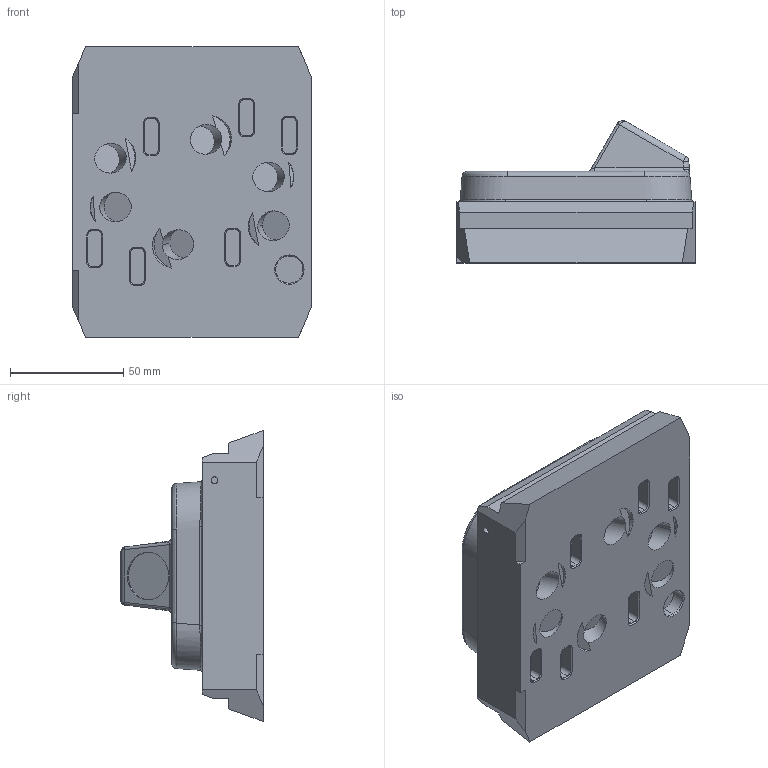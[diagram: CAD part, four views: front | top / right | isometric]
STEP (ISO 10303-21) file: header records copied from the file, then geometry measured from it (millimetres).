
FILE_DESCRIPTION (( 'STEP AP214' ), '1' );
FILE_NAME ('賸.01-04.000-04.STEP', '2025-01-16T11:36:19', ( '' ), ( '' ), 'SwSTEP 2.0', 'SolidWorks 2020', '' );
FILE_SCHEMA (( 'AUTOMOTIVE_DESIGN' ));
Length unit declared in the file: millimetre
Products named in the file (1): 賸.01-04.000-04
Bounding box: 106 x 62.9 x 128.6 mm (x, y, z)
Volume: 446424 mm3; surface area: 63047.5 mm2
Topology: 2 solids, 2 shells, 224 faces, 531 edges, 330 vertices
Faces by surface type: plane 98, cylinder 68, bspline 32, cone 26
Entity records: 9088 total; most frequent: CARTESIAN_POINT 4109, ORIENTED_EDGE 1058, DIRECTION 979, EDGE_CURVE 529, AXIS2_PLACEMENT_3D 349, VERTEX_POINT 330, VECTOR 281, LINE 281
